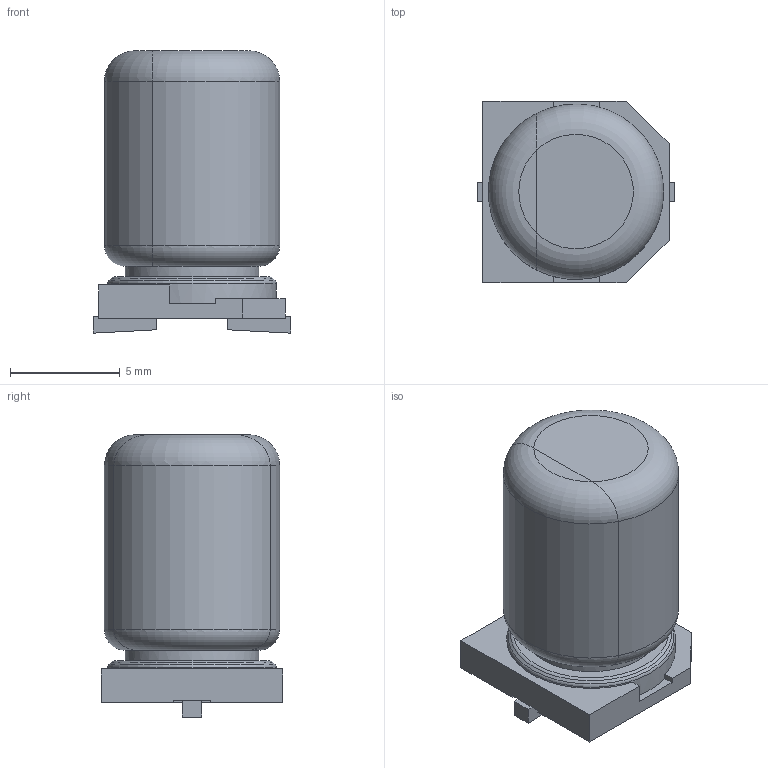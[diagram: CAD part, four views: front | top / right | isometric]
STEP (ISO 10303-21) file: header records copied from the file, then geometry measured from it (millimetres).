
FILE_DESCRIPTION(/* description */ ('Unknown'),/* implementation_level */ '2;1');
FILE_NAME(/* name */ 'AEF08124R7M400R',/* time_stamp */ '2023-07-20T08:33:50+02:00',/* author */ ('Unknown'),/* organization */ ('Unknown'),/* preprocessor_version */ 'ST-DEVELOPER v18.102',/* originating_system */ 'Solid Edge',/* authorisation */ 'Unknown');
FILE_SCHEMA (('AUTOMOTIVE_DESIGN {1 0 10303 214 3 1 1}'));
Length unit declared in the file: millimetre
Products named in the file (1): AEF08124R7M400R
Bounding box: 9 x 8.3 x 12.88 mm (x, y, z)
Volume: 608.6 mm3; surface area: 470.4 mm2
Topology: 1 solids, 1 shells, 50 faces, 125 edges, 79 vertices
Faces by surface type: plane 39, torus 6, cylinder 4, cone 1
Full cylindrical faces by diameter (mm): 6.099 x1, 7.697 x1
Entity records: 1812 total; most frequent: CARTESIAN_POINT 264, ORIENTED_EDGE 238, DIRECTION 235, EDGE_CURVE 119, LINE 97, VECTOR 97, VERTEX_POINT 78, AXIS2_PLACEMENT_3D 69
